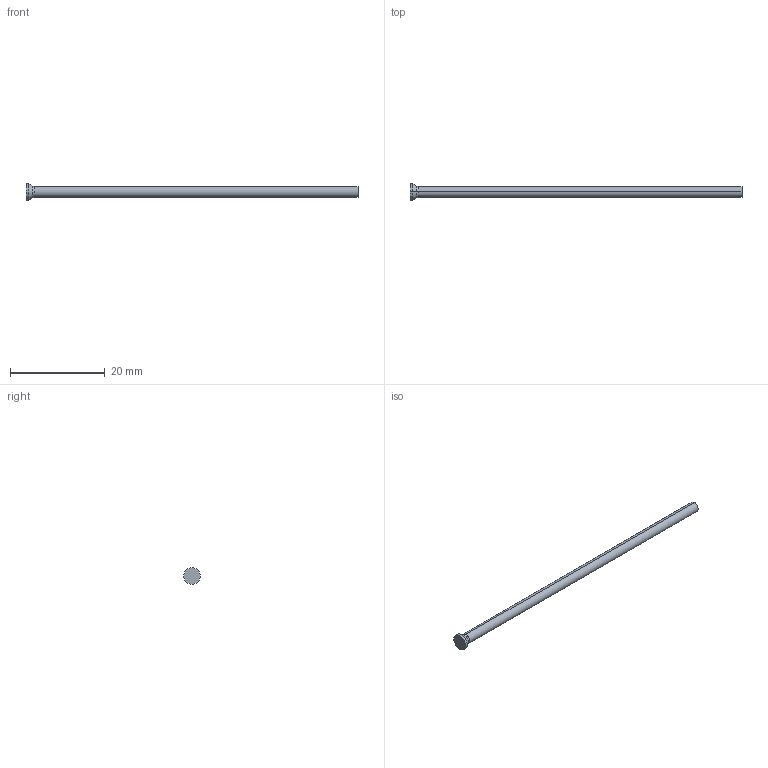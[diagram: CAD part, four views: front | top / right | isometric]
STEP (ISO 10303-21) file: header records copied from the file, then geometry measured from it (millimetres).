
FILE_DESCRIPTION (( 'STEP AP214' ), '1' );
FILE_NAME ('D-2,25x70.STEP', '2020-06-08T10:32:37', ( 'August' ), ( '' ), 'SwSTEP 2.0', 'SolidWorks 2018', '' );
FILE_SCHEMA (( 'AUTOMOTIVE_DESIGN' ));
Length unit declared in the file: millimetre
Products named in the file (1): D-2,25x70
Bounding box: 70 x 3.5 x 3.5 mm (x, y, z)
Volume: 284.1 mm3; surface area: 514 mm2
Topology: 1 solids, 1 shells, 10 faces, 18 edges, 10 vertices
Faces by surface type: cylinder 4, torus 2, cone 2, plane 2
Entity records: 280 total; most frequent: DIRECTION 52, CARTESIAN_POINT 39, ORIENTED_EDGE 36, AXIS2_PLACEMENT_3D 23, EDGE_CURVE 18, CIRCLE 12, VERTEX_POINT 10, EDGE_LOOP 10
